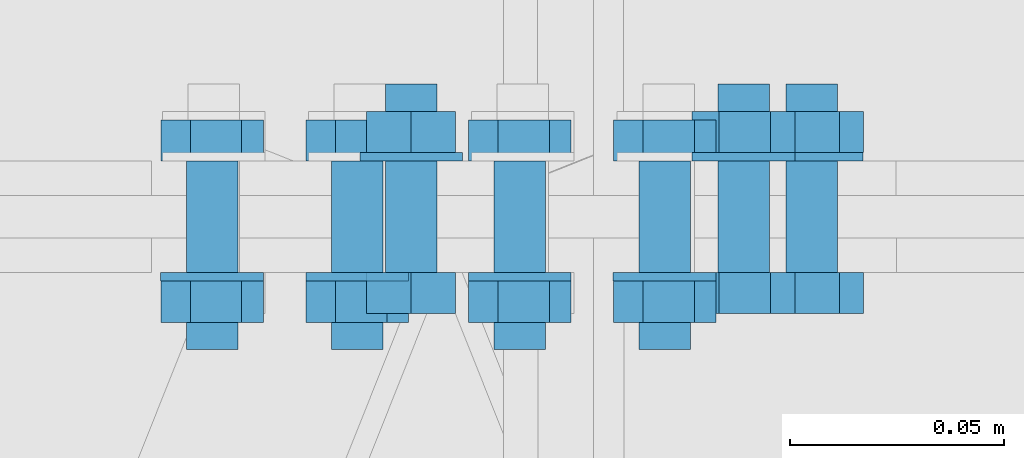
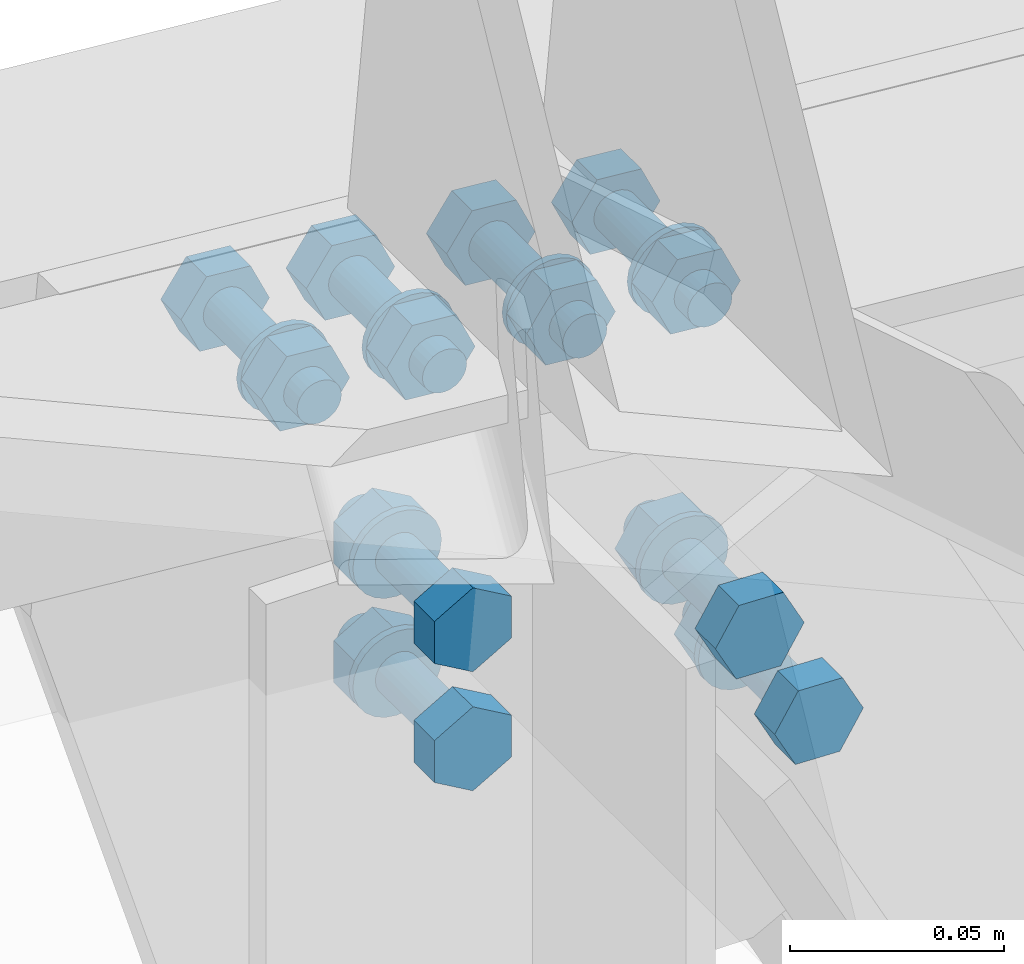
# One storey, part 200 of 251: 32 mechanical fasteners.
"""IFC4 building model written with IfcOpenShell, lengths in metres."""

from ifc_helpers import new_model, si_unit, frame, origin_with_axes, place, context, project, spatial, polyline, outline, extrude, type_object, element, save


model = new_model("IFC4")

# Units and contexts
model_context = context("Model", 3, precision=1e-05, world=origin_with_axes())
ifc_project = project(units=[si_unit("LENGTHUNIT", "METRE"), si_unit("AREAUNIT", "SQUARE_METRE"), si_unit("VOLUMEUNIT", "CUBIC_METRE"), si_unit("MASSUNIT", "GRAM", prefix="KILO"), si_unit("TIMEUNIT", "SECOND"), si_unit("PLANEANGLEUNIT", "RADIAN"), si_unit("SOLIDANGLEUNIT", "STERADIAN"), si_unit("THERMODYNAMICTEMPERATUREUNIT", "DEGREE_CELSIUS")], contexts=[model_context])

# Site, building, storey
placement_1 = place(None, origin_with_axes())
site = spatial("IfcSite", under=ifc_project, at=placement_1, Name="Italia", CompositionType="ELEMENT")
building = spatial("IfcBuilding", under=site, at=placement_1, Name="Deposito", CompositionType="ELEMENT")
storey = spatial("IfcBuildingStorey", under=building, at=placement_1, Name="Storey 0", CompositionType="ELEMENT", Elevation=0.0)

# Mechanical fasteners
mechanical_fastener_type_1 = type_object("IfcMechanicalFastenerType", Name="Reticolare 6", PredefinedType="BOLT")
placement_2 = place(placement_1, origin_with_axes())
mechanical_fastener_1_placement = place(placement_2, origin_with_axes())
element("IfcMechanicalFastener", 1, at=mechanical_fastener_1_placement, inside=storey, type_object=mechanical_fastener_type_1, Name="Reticolare 6", NominalDiameter=0.0119996, context=model_context, shape_type="SweptSolid", body=[
    extrude(outline(polyline([(0.0, 0.0), (0.0119543, 0.00104618), (0.018837, -0.00878382), (0.0137653, -0.0196595), (0.00181103, -0.0207052), (-0.00507164, -0.0108757), (0.0, 0.0)])), frame((10.0254, 20.013, 6.87607), z_axis=(0.0, 1.0, 0.0), x_axis=(-1.0, 0.0, 0.0)), (0.0, 0.0, 1.0), 0.00959969),
])
mechanical_fastener_type_2 = type_object("IfcMechanicalFastenerType", Name="Reticolare 6", PredefinedType="BOLT")
mechanical_fastener_2_placement = place(placement_2, origin_with_axes())
element("IfcMechanicalFastener", 2, at=mechanical_fastener_2_placement, inside=storey, type_object=mechanical_fastener_type_2, Name="Reticolare 6", NominalDiameter=0.012, context=model_context, shape_type="SweptSolid", body=[
    extrude(outline(polyline([(0.0, 0.0), (-0.000204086, -0.00155306), (-0.000802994, -0.00299978), (-0.00175667, -0.00424242), (-0.00299931, -0.00519609), (-0.00444698, -0.00579548), (-0.00599957, -0.00600004), (-0.00755215, -0.00579548), (-0.00899982, -0.00519609), (-0.0102425, -0.00424242), (-0.0111961, -0.00299978), (-0.011795, -0.00155306), (-0.0119991, 0.0), (-0.011795, 0.00155306), (-0.0111961, 0.00299978), (-0.0102425, 0.00424242), (-0.00899982, 0.00519609), (-0.00755215, 0.00579548), (-0.00599957, 0.00600004), (-0.00444698, 0.00579548), (-0.00299931, 0.00519609), (-0.00175667, 0.00424242), (-0.000802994, 0.00299978), (-0.000204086, 0.00155306), (0.0, 0.0)])), frame((10.0125, 19.969, 6.86624), z_axis=(0.0, 1.0, 0.0), x_axis=(-1.0, 0.0, 0.0)), (0.0, 0.0, 1.0), 0.0440006),
])
mechanical_fastener_type_3 = type_object("IfcMechanicalFastenerType", Name="Reticolare 6", PredefinedType="BOLT")
mechanical_fastener_3_placement = place(placement_2, origin_with_axes())
element("IfcMechanicalFastener", 3, at=mechanical_fastener_3_placement, inside=storey, type_object=mechanical_fastener_type_3, Name="Reticolare 6", NominalDiameter=0.0119996, context=model_context, shape_type="SweptSolid", body=[
    extrude(outline(polyline([(0.0, 0.0), (0.0119543, 0.00104618), (0.018837, -0.00878382), (0.0137653, -0.0196595), (0.00181103, -0.0207052), (-0.00507164, -0.0108757), (0.0, 0.0)])), frame((10.0254, 19.9754, 6.87607), z_axis=(0.0, 1.0, 0.0), x_axis=(-1.0, 0.0, 0.0)), (0.0, 0.0, 1.0), 0.00959969),
])
mechanical_fastener_type_4 = type_object("IfcMechanicalFastenerType", Name="Reticolare 6", PredefinedType="BOLT")
mechanical_fastener_4_placement = place(placement_2, origin_with_axes())
element("IfcMechanicalFastener", 4, at=mechanical_fastener_4_placement, inside=storey, type_object=mechanical_fastener_type_4, Name="Reticolare 6", NominalDiameter=0.024, context=model_context, shape_type="SweptSolid", body=[
    extrude(outline(polyline([(0.0, 0.0), (-0.000409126, -0.00310564), (-0.00160789, -0.00600004), (-0.00351524, -0.00848532), (-0.00600052, -0.0103922), (-0.00889397, -0.011591), (-0.0120001, -0.0120001), (-0.0151062, -0.011591), (-0.0179996, -0.0103922), (-0.0204849, -0.00848532), (-0.0223923, -0.00600004), (-0.023591, -0.00310564), (-0.0240002, 0.0), (-0.023591, 0.00310564), (-0.0223923, 0.00600004), (-0.0204849, 0.00848532), (-0.0179996, 0.0103922), (-0.0151062, 0.011591), (-0.0120001, 0.0120001), (-0.00889397, 0.011591), (-0.00600052, 0.0103922), (-0.00351524, 0.00848532), (-0.00160789, 0.00600004), (-0.000409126, 0.00310564), (0.0, 0.0)])), frame((10.0065, 19.985, 6.86624), z_axis=(0.0, 1.0, 0.0), x_axis=(-1.0, 0.0, 0.0)), (0.0, 0.0, 1.0), 0.0019989),
])
mechanical_fastener_type_5 = type_object("IfcMechanicalFastenerType", Name="Reticolare 6", PredefinedType="BOLT")
mechanical_fastener_5_placement = place(placement_2, origin_with_axes())
element("IfcMechanicalFastener", 5, at=mechanical_fastener_5_placement, inside=storey, type_object=mechanical_fastener_type_5, Name="Reticolare 6", NominalDiameter=0.012, context=model_context, shape_type="SweptSolid", body=[
    extrude(outline(polyline([(0.0, 0.0), (0.0119543, 0.0010457), (0.018837, -0.00878429), (0.0137653, -0.01966), (0.00181103, -0.0207057), (-0.00507164, -0.0108757), (0.0, 0.0)])), frame((9.99153, 20.013, 6.87903), z_axis=(0.0, 1.0, 0.0), x_axis=(-1.0, 0.0, 0.0)), (0.0, 0.0, 1.0), 0.00959969),
])
mechanical_fastener_type_6 = type_object("IfcMechanicalFastenerType", Name="Reticolare 6", PredefinedType="BOLT")
mechanical_fastener_6_placement = place(placement_2, origin_with_axes())
element("IfcMechanicalFastener", 6, at=mechanical_fastener_6_placement, inside=storey, type_object=mechanical_fastener_type_6, Name="Reticolare 6", NominalDiameter=0.012, context=model_context, shape_type="SweptSolid", body=[
    extrude(outline(polyline([(0.0, 0.0), (-0.000204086, -0.00155306), (-0.000802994, -0.00299978), (-0.00175667, -0.00424242), (-0.00299931, -0.00519609), (-0.00444698, -0.00579548), (-0.00599957, -0.00600004), (-0.00755215, -0.00579548), (-0.00899982, -0.00519609), (-0.0102425, -0.00424242), (-0.0111961, -0.00299978), (-0.011795, -0.00155306), (-0.0119991, 0.0), (-0.011795, 0.00155306), (-0.0111961, 0.00299978), (-0.0102425, 0.00424242), (-0.00899982, 0.00519609), (-0.00755215, 0.00579548), (-0.00599957, 0.00600004), (-0.00444698, 0.00579548), (-0.00299931, 0.00519609), (-0.00175667, 0.00424242), (-0.000802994, 0.00299978), (-0.000204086, 0.00155306), (0.0, 0.0)])), frame((9.97864, 19.969, 6.8692), z_axis=(0.0, 1.0, 0.0), x_axis=(-1.0, 0.0, 0.0)), (0.0, 0.0, 1.0), 0.0440006),
])
mechanical_fastener_type_7 = type_object("IfcMechanicalFastenerType", Name="Reticolare 6", PredefinedType="BOLT")
mechanical_fastener_7_placement = place(placement_2, origin_with_axes())
element("IfcMechanicalFastener", 7, at=mechanical_fastener_7_placement, inside=storey, type_object=mechanical_fastener_type_7, Name="Reticolare 6", NominalDiameter=0.012, context=model_context, shape_type="SweptSolid", body=[
    extrude(outline(polyline([(0.0, 0.0), (0.0119543, 0.0010457), (0.018837, -0.00878429), (0.0137653, -0.01966), (0.00181103, -0.0207057), (-0.00507164, -0.0108757), (0.0, 0.0)])), frame((9.99153, 19.9754, 6.87903), z_axis=(0.0, 1.0, 0.0), x_axis=(-1.0, 0.0, 0.0)), (0.0, 0.0, 1.0), 0.00959969),
])
mechanical_fastener_type_8 = type_object("IfcMechanicalFastenerType", Name="Reticolare 6", PredefinedType="BOLT")
mechanical_fastener_8_placement = place(placement_2, origin_with_axes())
element("IfcMechanicalFastener", 8, at=mechanical_fastener_8_placement, inside=storey, type_object=mechanical_fastener_type_8, Name="Reticolare 6", NominalDiameter=0.024, context=model_context, shape_type="SweptSolid", body=[
    extrude(outline(polyline([(0.0, 0.0), (-0.000409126, -0.00310564), (-0.00160789, -0.00600004), (-0.00351524, -0.00848532), (-0.00600052, -0.0103922), (-0.00889397, -0.011591), (-0.0120001, -0.0120001), (-0.0151062, -0.011591), (-0.0179996, -0.0103922), (-0.0204849, -0.00848532), (-0.0223923, -0.00600004), (-0.023591, -0.00310564), (-0.0240002, 0.0), (-0.023591, 0.00310564), (-0.0223923, 0.00600004), (-0.0204849, 0.00848532), (-0.0179996, 0.0103922), (-0.0151062, 0.011591), (-0.0120001, 0.0120001), (-0.00889397, 0.011591), (-0.00600052, 0.0103922), (-0.00351524, 0.00848532), (-0.00160789, 0.00600004), (-0.000409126, 0.00310564), (0.0, 0.0)])), frame((9.97264, 19.985, 6.8692), z_axis=(0.0, 1.0, 0.0), x_axis=(-1.0, 0.0, 0.0)), (0.0, 0.0, 1.0), 0.0019989),
])
mechanical_fastener_type_9 = type_object("IfcMechanicalFastenerType", Name="Reticolare 6", PredefinedType="BOLT")
mechanical_fastener_9_placement = place(placement_2, origin_with_axes())
element("IfcMechanicalFastener", 9, at=mechanical_fastener_9_placement, inside=storey, type_object=mechanical_fastener_type_9, Name="Reticolare 6", NominalDiameter=0.0119997, context=model_context, shape_type="SweptSolid", body=[
    extrude(outline(polyline([(0.0, 0.0), (0.0119543, 0.0010457), (0.0188379, -0.00878429), (0.0137663, -0.01966), (0.00181198, -0.0207057), (-0.00507069, -0.0108757), (0.0, 0.0)])), frame((10.0633, 20.013, 6.87276), z_axis=(0.0, 1.0, 0.0), x_axis=(-1.0, 0.0, 0.0)), (0.0, 0.0, 1.0), 0.00959969),
])
mechanical_fastener_type_10 = type_object("IfcMechanicalFastenerType", Name="Reticolare 6", PredefinedType="BOLT")
mechanical_fastener_10_placement = place(placement_2, origin_with_axes())
element("IfcMechanicalFastener", 10, at=mechanical_fastener_10_placement, inside=storey, type_object=mechanical_fastener_type_10, Name="Reticolare 6", NominalDiameter=0.012, context=model_context, shape_type="SweptSolid", body=[
    extrude(outline(polyline([(0.0, 0.0), (-0.000204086, -0.00155306), (-0.000802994, -0.00299978), (-0.00175667, -0.00424242), (-0.00299931, -0.00519609), (-0.00444698, -0.00579548), (-0.00599957, -0.00600004), (-0.00755215, -0.00579548), (-0.00899982, -0.00519609), (-0.0102425, -0.00424242), (-0.0111961, -0.00299978), (-0.011795, -0.00155306), (-0.0119991, 0.0), (-0.011795, 0.00155306), (-0.0111961, 0.00299978), (-0.0102425, 0.00424242), (-0.00899982, 0.00519609), (-0.00755215, 0.00579548), (-0.00599957, 0.00600004), (-0.00444698, 0.00579548), (-0.00299931, 0.00519609), (-0.00175667, 0.00424242), (-0.000802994, 0.00299978), (-0.000204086, 0.00155306), (0.0, 0.0)])), frame((10.0504, 19.969, 6.86293), z_axis=(0.0, 1.0, 0.0), x_axis=(-1.0, 0.0, 0.0)), (0.0, 0.0, 1.0), 0.0440006),
])
mechanical_fastener_type_11 = type_object("IfcMechanicalFastenerType", Name="Reticolare 6", PredefinedType="BOLT")
mechanical_fastener_11_placement = place(placement_2, origin_with_axes())
element("IfcMechanicalFastener", 11, at=mechanical_fastener_11_placement, inside=storey, type_object=mechanical_fastener_type_11, Name="Reticolare 6", NominalDiameter=0.0119997, context=model_context, shape_type="SweptSolid", body=[
    extrude(outline(polyline([(0.0, 0.0), (0.0119543, 0.0010457), (0.0188379, -0.00878429), (0.0137663, -0.01966), (0.00181198, -0.0207057), (-0.00507069, -0.0108757), (0.0, 0.0)])), frame((10.0633, 19.9754, 6.87276), z_axis=(0.0, 1.0, 0.0), x_axis=(-1.0, 0.0, 0.0)), (0.0, 0.0, 1.0), 0.00959969),
])
mechanical_fastener_type_12 = type_object("IfcMechanicalFastenerType", Name="Reticolare 6", PredefinedType="BOLT")
mechanical_fastener_12_placement = place(placement_2, origin_with_axes())
element("IfcMechanicalFastener", 12, at=mechanical_fastener_12_placement, inside=storey, type_object=mechanical_fastener_type_12, Name="Reticolare 6", NominalDiameter=0.024, context=model_context, shape_type="SweptSolid", body=[
    extrude(outline(polyline([(0.0, 0.0), (-0.000409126, -0.00310564), (-0.00160789, -0.00600004), (-0.00351524, -0.00848532), (-0.00600052, -0.0103922), (-0.00889397, -0.011591), (-0.0120001, -0.0120001), (-0.0151062, -0.011591), (-0.0179996, -0.0103922), (-0.0204849, -0.00848532), (-0.0223923, -0.00600004), (-0.023591, -0.00310564), (-0.0240002, 0.0), (-0.023591, 0.00310564), (-0.0223923, 0.00600004), (-0.0204849, 0.00848532), (-0.0179996, 0.0103922), (-0.0151062, 0.011591), (-0.0120001, 0.0120001), (-0.00889397, 0.011591), (-0.00600052, 0.0103922), (-0.00351524, 0.00848532), (-0.00160789, 0.00600004), (-0.000409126, 0.00310564), (0.0, 0.0)])), frame((10.0444, 19.985, 6.86293), z_axis=(0.0, 1.0, 0.0), x_axis=(-1.0, 0.0, 0.0)), (0.0, 0.0, 1.0), 0.0019989),
])
mechanical_fastener_type_13 = type_object("IfcMechanicalFastenerType", Name="Reticolare 6", PredefinedType="BOLT")
mechanical_fastener_13_placement = place(placement_2, origin_with_axes())
element("IfcMechanicalFastener", 13, at=mechanical_fastener_13_placement, inside=storey, type_object=mechanical_fastener_type_13, Name="Reticolare 6", NominalDiameter=0.0119996, context=model_context, shape_type="SweptSolid", body=[
    extrude(outline(polyline([(0.0, 0.0), (0.0119543, 0.00104618), (0.0188379, -0.00878382), (0.0137663, -0.0196595), (0.00181198, -0.0207052), (-0.00507069, -0.0108757), (0.0, 0.0)])), frame((10.0971, 20.013, 6.86979), z_axis=(0.0, 1.0, 0.0), x_axis=(-1.0, 0.0, 0.0)), (0.0, 0.0, 1.0), 0.00959969),
])
mechanical_fastener_type_14 = type_object("IfcMechanicalFastenerType", Name="Reticolare 6", PredefinedType="BOLT")
mechanical_fastener_14_placement = place(placement_2, origin_with_axes())
element("IfcMechanicalFastener", 14, at=mechanical_fastener_14_placement, inside=storey, type_object=mechanical_fastener_type_14, Name="Reticolare 6", NominalDiameter=0.012, context=model_context, shape_type="SweptSolid", body=[
    extrude(outline(polyline([(0.0, 0.0), (-0.000204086, -0.00155306), (-0.000802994, -0.00299978), (-0.00175667, -0.00424242), (-0.00299931, -0.00519609), (-0.00444698, -0.00579548), (-0.00599957, -0.00600004), (-0.00755215, -0.00579548), (-0.00899982, -0.00519609), (-0.0102425, -0.00424242), (-0.0111961, -0.00299978), (-0.011795, -0.00155306), (-0.0119991, 0.0), (-0.011795, 0.00155306), (-0.0111961, 0.00299978), (-0.0102425, 0.00424242), (-0.00899982, 0.00519609), (-0.00755215, 0.00579548), (-0.00599957, 0.00600004), (-0.00444698, 0.00579548), (-0.00299931, 0.00519609), (-0.00175667, 0.00424242), (-0.000802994, 0.00299978), (-0.000204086, 0.00155306), (0.0, 0.0)])), frame((10.0842, 19.969, 6.85996), z_axis=(0.0, 1.0, 0.0), x_axis=(-1.0, 0.0, 0.0)), (0.0, 0.0, 1.0), 0.0440006),
])
mechanical_fastener_type_15 = type_object("IfcMechanicalFastenerType", Name="Reticolare 6", PredefinedType="BOLT")
mechanical_fastener_15_placement = place(placement_2, origin_with_axes())
element("IfcMechanicalFastener", 15, at=mechanical_fastener_15_placement, inside=storey, type_object=mechanical_fastener_type_15, Name="Reticolare 6", NominalDiameter=0.0119996, context=model_context, shape_type="SweptSolid", body=[
    extrude(outline(polyline([(0.0, 0.0), (0.0119543, 0.00104618), (0.0188379, -0.00878382), (0.0137663, -0.0196595), (0.00181198, -0.0207052), (-0.00507069, -0.0108757), (0.0, 0.0)])), frame((10.0971, 19.9754, 6.86979), z_axis=(0.0, 1.0, 0.0), x_axis=(-1.0, 0.0, 0.0)), (0.0, 0.0, 1.0), 0.00959969),
])
mechanical_fastener_type_16 = type_object("IfcMechanicalFastenerType", Name="Reticolare 6", PredefinedType="BOLT")
mechanical_fastener_16_placement = place(placement_2, origin_with_axes())
element("IfcMechanicalFastener", 16, at=mechanical_fastener_16_placement, inside=storey, type_object=mechanical_fastener_type_16, Name="Reticolare 6", NominalDiameter=0.024, context=model_context, shape_type="SweptSolid", body=[
    extrude(outline(polyline([(0.0, 0.0), (-0.000409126, -0.00310564), (-0.00160789, -0.00600004), (-0.00351524, -0.00848532), (-0.00600052, -0.0103922), (-0.00889397, -0.011591), (-0.0120001, -0.0120001), (-0.0151062, -0.011591), (-0.0179996, -0.0103922), (-0.0204849, -0.00848532), (-0.0223923, -0.00600004), (-0.023591, -0.00310564), (-0.0240002, 0.0), (-0.023591, 0.00310564), (-0.0223923, 0.00600004), (-0.0204849, 0.00848532), (-0.0179996, 0.0103922), (-0.0151062, 0.011591), (-0.0120001, 0.0120001), (-0.00889397, 0.011591), (-0.00600052, 0.0103922), (-0.00351524, 0.00848532), (-0.00160789, 0.00600004), (-0.000409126, 0.00310564), (0.0, 0.0)])), frame((10.0782, 19.985, 6.85996), z_axis=(0.0, 1.0, 0.0), x_axis=(-1.0, 0.0, 0.0)), (0.0, 0.0, 1.0), 0.0019989),
])
mechanical_fastener_type_17 = type_object("IfcMechanicalFastenerType", Name="Reticolare 6", PredefinedType="BOLT")
mechanical_fastener_17_placement = place(placement_2, origin_with_axes())
element("IfcMechanicalFastener", 17, at=mechanical_fastener_17_placement, inside=storey, type_object=mechanical_fastener_type_17, Name="Reticolare 6", NominalDiameter=0.0119999, context=model_context, shape_type="SweptSolid", body=[
    extrude(outline(polyline([(0.0, 0.0), (0.0, -0.0120001), (-0.0103922, -0.0180001), (-0.0207844, -0.0120001), (-0.0207844, 0.0), (-0.0103922, 0.00600004), (0.0, 0.0)])), frame((10.0414, 19.987, 6.7888), z_axis=(0.0, -1.0, 0.0), x_axis=(1.0, 0.0, 0.0)), (0.0, 0.0, 1.0), 0.00959969),
])
mechanical_fastener_type_18 = type_object("IfcMechanicalFastenerType", Name="Reticolare 6", PredefinedType="BOLT")
mechanical_fastener_18_placement = place(placement_2, origin_with_axes())
element("IfcMechanicalFastener", 18, at=mechanical_fastener_18_placement, inside=storey, type_object=mechanical_fastener_type_18, Name="Reticolare 6", NominalDiameter=0.012, context=model_context, shape_type="SweptSolid", body=[
    extrude(outline(polyline([(0.0, 0.0), (-0.000204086, -0.00155306), (-0.000802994, -0.00299978), (-0.00175667, -0.00424242), (-0.00299931, -0.00519609), (-0.00444698, -0.00579548), (-0.00599957, -0.00600004), (-0.00755215, -0.00579548), (-0.00899982, -0.00519609), (-0.0102425, -0.00424242), (-0.0111961, -0.00299978), (-0.011795, -0.00155306), (-0.0119991, 0.0), (-0.011795, 0.00155306), (-0.0111961, 0.00299978), (-0.0102425, 0.00424242), (-0.00899982, 0.00519609), (-0.00755215, 0.00579548), (-0.00599957, 0.00600004), (-0.00444698, 0.00579548), (-0.00299931, 0.00519609), (-0.00175667, 0.00424242), (-0.000802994, 0.00299978), (-0.000204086, 0.00155306), (0.0, 0.0)])), frame((10.0371, 20.031, 6.7828), z_axis=(0.0, -1.0, 0.0), x_axis=(1.0, 0.0, 0.0)), (0.0, 0.0, 1.0), 0.0440006),
])
mechanical_fastener_type_19 = type_object("IfcMechanicalFastenerType", Name="Reticolare 6", PredefinedType="BOLT")
mechanical_fastener_19_placement = place(placement_2, origin_with_axes())
element("IfcMechanicalFastener", 19, at=mechanical_fastener_19_placement, inside=storey, type_object=mechanical_fastener_type_19, Name="Reticolare 6", NominalDiameter=0.0119999, context=model_context, shape_type="SweptSolid", body=[
    extrude(outline(polyline([(0.0, 0.0), (0.0, -0.0120001), (-0.0103922, -0.0180001), (-0.0207844, -0.0120001), (-0.0207844, 0.0), (-0.0103922, 0.00600004), (0.0, 0.0)])), frame((10.0414, 20.0246, 6.7888), z_axis=(0.0, -1.0, 0.0), x_axis=(1.0, 0.0, 0.0)), (0.0, 0.0, 1.0), 0.00959969),
])
mechanical_fastener_type_20 = type_object("IfcMechanicalFastenerType", Name="Reticolare 6", PredefinedType="BOLT")
mechanical_fastener_20_placement = place(placement_2, origin_with_axes())
element("IfcMechanicalFastener", 20, at=mechanical_fastener_20_placement, inside=storey, type_object=mechanical_fastener_type_20, Name="Reticolare 6", NominalDiameter=0.024, context=model_context, shape_type="SweptSolid", body=[
    extrude(outline(polyline([(0.0, 0.0), (-0.000409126, -0.00310564), (-0.00160789, -0.00600004), (-0.00351524, -0.00848532), (-0.00600052, -0.0103922), (-0.00889397, -0.011591), (-0.0120001, -0.0120001), (-0.0151062, -0.011591), (-0.0179996, -0.0103922), (-0.0204849, -0.00848532), (-0.0223923, -0.00600004), (-0.023591, -0.00310564), (-0.0240002, 0.0), (-0.023591, 0.00310564), (-0.0223923, 0.00600004), (-0.0204849, 0.00848532), (-0.0179996, 0.0103922), (-0.0151062, 0.011591), (-0.0120001, 0.0120001), (-0.00889397, 0.011591), (-0.00600052, 0.0103922), (-0.00351524, 0.00848532), (-0.00160789, 0.00600004), (-0.000409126, 0.00310564), (0.0, 0.0)])), frame((10.0431, 20.015, 6.7828), z_axis=(0.0, -1.0, 0.0), x_axis=(1.0, 0.0, 0.0)), (0.0, 0.0, 1.0), 0.0019989),
])
mechanical_fastener_type_21 = type_object("IfcMechanicalFastenerType", Name="Reticolare 6", PredefinedType="BOLT")
mechanical_fastener_21_placement = place(placement_2, origin_with_axes())
element("IfcMechanicalFastener", 21, at=mechanical_fastener_21_placement, inside=storey, type_object=mechanical_fastener_type_21, Name="Reticolare 6", NominalDiameter=0.0119999, context=model_context, shape_type="SweptSolid", body=[
    extrude(outline(polyline([(0.0, 0.0), (0.0, -0.0120001), (-0.0103922, -0.0180001), (-0.0207844, -0.0120001), (-0.0207844, 0.0), (-0.0103922, 0.00600004), (0.0, 0.0)])), frame((10.0414, 19.987, 6.7548), z_axis=(0.0, -1.0, 0.0), x_axis=(1.0, 0.0, 0.0)), (0.0, 0.0, 1.0), 0.00959969),
])
mechanical_fastener_type_22 = type_object("IfcMechanicalFastenerType", Name="Reticolare 6", PredefinedType="BOLT")
mechanical_fastener_22_placement = place(placement_2, origin_with_axes())
element("IfcMechanicalFastener", 22, at=mechanical_fastener_22_placement, inside=storey, type_object=mechanical_fastener_type_22, Name="Reticolare 6", NominalDiameter=0.012, context=model_context, shape_type="SweptSolid", body=[
    extrude(outline(polyline([(0.0, 0.0), (-0.000204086, -0.00155306), (-0.000802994, -0.00299978), (-0.00175667, -0.00424242), (-0.00299931, -0.00519609), (-0.00444698, -0.00579548), (-0.00599957, -0.00600004), (-0.00755215, -0.00579548), (-0.00899982, -0.00519609), (-0.0102425, -0.00424242), (-0.0111961, -0.00299978), (-0.011795, -0.00155306), (-0.0119991, 0.0), (-0.011795, 0.00155306), (-0.0111961, 0.00299978), (-0.0102425, 0.00424242), (-0.00899982, 0.00519609), (-0.00755215, 0.00579548), (-0.00599957, 0.00600004), (-0.00444698, 0.00579548), (-0.00299931, 0.00519609), (-0.00175667, 0.00424242), (-0.000802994, 0.00299978), (-0.000204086, 0.00155306), (0.0, 0.0)])), frame((10.0371, 20.031, 6.7488), z_axis=(0.0, -1.0, 0.0), x_axis=(1.0, 0.0, 0.0)), (0.0, 0.0, 1.0), 0.0440006),
])
mechanical_fastener_type_23 = type_object("IfcMechanicalFastenerType", Name="Reticolare 6", PredefinedType="BOLT")
mechanical_fastener_23_placement = place(placement_2, origin_with_axes())
element("IfcMechanicalFastener", 23, at=mechanical_fastener_23_placement, inside=storey, type_object=mechanical_fastener_type_23, Name="Reticolare 6", NominalDiameter=0.0119999, context=model_context, shape_type="SweptSolid", body=[
    extrude(outline(polyline([(0.0, 0.0), (0.0, -0.0120001), (-0.0103922, -0.0180001), (-0.0207844, -0.0120001), (-0.0207844, 0.0), (-0.0103922, 0.00600004), (0.0, 0.0)])), frame((10.0414, 20.0246, 6.7548), z_axis=(0.0, -1.0, 0.0), x_axis=(1.0, 0.0, 0.0)), (0.0, 0.0, 1.0), 0.00959969),
])
mechanical_fastener_type_24 = type_object("IfcMechanicalFastenerType", Name="Reticolare 6", PredefinedType="BOLT")
mechanical_fastener_24_placement = place(placement_2, origin_with_axes())
element("IfcMechanicalFastener", 24, at=mechanical_fastener_24_placement, inside=storey, type_object=mechanical_fastener_type_24, Name="Reticolare 6", NominalDiameter=0.024, context=model_context, shape_type="SweptSolid", body=[
    extrude(outline(polyline([(0.0, 0.0), (-0.000409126, -0.00310564), (-0.00160789, -0.00600004), (-0.00351524, -0.00848532), (-0.00600052, -0.0103922), (-0.00889397, -0.011591), (-0.0120001, -0.0120001), (-0.0151062, -0.011591), (-0.0179996, -0.0103922), (-0.0204849, -0.00848532), (-0.0223923, -0.00600004), (-0.023591, -0.00310564), (-0.0240002, 0.0), (-0.023591, 0.00310564), (-0.0223923, 0.00600004), (-0.0204849, 0.00848532), (-0.0179996, 0.0103922), (-0.0151062, 0.011591), (-0.0120001, 0.0120001), (-0.00889397, 0.011591), (-0.00600052, 0.0103922), (-0.00351524, 0.00848532), (-0.00160789, 0.00600004), (-0.000409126, 0.00310564), (0.0, 0.0)])), frame((10.0431, 20.015, 6.7488), z_axis=(0.0, -1.0, 0.0), x_axis=(1.0, 0.0, 0.0)), (0.0, 0.0, 1.0), 0.0019989),
])
mechanical_fastener_type_25 = type_object("IfcMechanicalFastenerType", Name="Reticolare 6", PredefinedType="BOLT")
mechanical_fastener_25_placement = place(placement_2, origin_with_axes())
element("IfcMechanicalFastener", 25, at=mechanical_fastener_25_placement, inside=storey, type_object=mechanical_fastener_type_25, Name="Reticolare 6", NominalDiameter=0.0119999, context=model_context, shape_type="SweptSolid", body=[
    extrude(outline(polyline([(0.0, 0.0), (-0.00563812, 0.0105929), (0.000716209, 0.0207725), (0.0127096, 0.020359), (0.0183477, 0.0097661), (0.0119934, -0.000413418), (0.0, 0.0)])), frame((10.1022, 19.987, 6.74381), z_axis=(0.0, -1.0, 0.0), x_axis=(1.0, 0.0, 0.0)), (0.0, 0.0, 1.0), 0.00959969),
])
mechanical_fastener_type_26 = type_object("IfcMechanicalFastenerType", Name="Reticolare 6", PredefinedType="BOLT")
mechanical_fastener_26_placement = place(placement_2, origin_with_axes())
element("IfcMechanicalFastener", 26, at=mechanical_fastener_26_placement, inside=storey, type_object=mechanical_fastener_type_26, Name="Reticolare 6", NominalDiameter=0.012, context=model_context, shape_type="SweptSolid", body=[
    extrude(outline(polyline([(0.0, 0.0), (-0.000204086, -0.00155306), (-0.000802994, -0.00299978), (-0.00175667, -0.00424242), (-0.00299931, -0.00519609), (-0.00444698, -0.00579548), (-0.00599957, -0.00600004), (-0.00755215, -0.00579548), (-0.00899982, -0.00519609), (-0.0102425, -0.00424242), (-0.0111961, -0.00299978), (-0.011795, -0.00155306), (-0.0119991, 0.0), (-0.011795, 0.00155306), (-0.0111961, 0.00299978), (-0.0102425, 0.00424242), (-0.00899982, 0.00519609), (-0.00755215, 0.00579548), (-0.00599957, 0.00600004), (-0.00444698, 0.00579548), (-0.00299931, 0.00519609), (-0.00175667, 0.00424242), (-0.000802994, 0.00299978), (-0.000204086, 0.00155306), (0.0, 0.0)])), frame((10.1146, 20.031, 6.75399), z_axis=(0.0, -1.0, 0.0), x_axis=(1.0, 0.0, 0.0)), (0.0, 0.0, 1.0), 0.0440006),
])
mechanical_fastener_type_27 = type_object("IfcMechanicalFastenerType", Name="Reticolare 6", PredefinedType="BOLT")
mechanical_fastener_27_placement = place(placement_2, origin_with_axes())
element("IfcMechanicalFastener", 27, at=mechanical_fastener_27_placement, inside=storey, type_object=mechanical_fastener_type_27, Name="Reticolare 6", NominalDiameter=0.0119999, context=model_context, shape_type="SweptSolid", body=[
    extrude(outline(polyline([(0.0, 0.0), (-0.00563812, 0.0105929), (0.000716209, 0.0207725), (0.0127096, 0.020359), (0.0183477, 0.0097661), (0.0119934, -0.000413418), (0.0, 0.0)])), frame((10.1022, 20.0246, 6.74381), z_axis=(0.0, -1.0, 0.0), x_axis=(1.0, 0.0, 0.0)), (0.0, 0.0, 1.0), 0.00959969),
])
mechanical_fastener_type_28 = type_object("IfcMechanicalFastenerType", Name="Reticolare 6", PredefinedType="BOLT")
mechanical_fastener_28_placement = place(placement_2, origin_with_axes())
element("IfcMechanicalFastener", 28, at=mechanical_fastener_28_placement, inside=storey, type_object=mechanical_fastener_type_28, Name="Reticolare 6", NominalDiameter=0.024, context=model_context, shape_type="SweptSolid", body=[
    extrude(outline(polyline([(0.0, 0.0), (-0.000409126, -0.00310564), (-0.00160789, -0.00600004), (-0.00351524, -0.00848532), (-0.00600052, -0.0103922), (-0.00889397, -0.011591), (-0.0120001, -0.0120001), (-0.0151062, -0.011591), (-0.0179996, -0.0103922), (-0.0204849, -0.00848532), (-0.0223923, -0.00600004), (-0.023591, -0.00310564), (-0.0240002, 0.0), (-0.023591, 0.00310564), (-0.0223923, 0.00600004), (-0.0204849, 0.00848532), (-0.0179996, 0.0103922), (-0.0151062, 0.011591), (-0.0120001, 0.0120001), (-0.00889397, 0.011591), (-0.00600052, 0.0103922), (-0.00351524, 0.00848532), (-0.00160789, 0.00600004), (-0.000409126, 0.00310564), (0.0, 0.0)])), frame((10.1206, 20.015, 6.75399), z_axis=(0.0, -1.0, 0.0), x_axis=(1.0, 0.0, 0.0)), (0.0, 0.0, 1.0), 0.0019989),
])
mechanical_fastener_type_29 = type_object("IfcMechanicalFastenerType", Name="Reticolare 6", PredefinedType="BOLT")
mechanical_fastener_29_placement = place(placement_2, origin_with_axes())
element("IfcMechanicalFastener", 29, at=mechanical_fastener_29_placement, inside=storey, type_object=mechanical_fastener_type_29, Name="Reticolare 6", NominalDiameter=0.0119996, context=model_context, shape_type="SweptSolid", body=[
    extrude(outline(polyline([(0.0, 0.0), (-0.00563908, 0.0105929), (0.000716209, 0.0207725), (0.0127087, 0.020359), (0.0183468, 0.0097661), (0.0119925, -0.000413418), (0.0, 0.0)])), frame((10.1182, 19.987, 6.71379), z_axis=(0.0, -1.0, 0.0), x_axis=(1.0, 0.0, 0.0)), (0.0, 0.0, 1.0), 0.00959969),
])
mechanical_fastener_type_30 = type_object("IfcMechanicalFastenerType", Name="Reticolare 6", PredefinedType="BOLT")
mechanical_fastener_30_placement = place(placement_2, origin_with_axes())
element("IfcMechanicalFastener", 30, at=mechanical_fastener_30_placement, inside=storey, type_object=mechanical_fastener_type_30, Name="Reticolare 6", NominalDiameter=0.012, context=model_context, shape_type="SweptSolid", body=[
    extrude(outline(polyline([(0.0, 0.0), (-0.000204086, -0.00155306), (-0.000802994, -0.00299978), (-0.00175667, -0.00424242), (-0.00299931, -0.00519609), (-0.00444698, -0.00579548), (-0.00599957, -0.00600004), (-0.00755215, -0.00579548), (-0.00899982, -0.00519609), (-0.0102425, -0.00424242), (-0.0111961, -0.00299978), (-0.011795, -0.00155306), (-0.0119991, 0.0), (-0.011795, 0.00155306), (-0.0111961, 0.00299978), (-0.0102425, 0.00424242), (-0.00899982, 0.00519609), (-0.00755215, 0.00579548), (-0.00599957, 0.00600004), (-0.00444698, 0.00579548), (-0.00299931, 0.00519609), (-0.00175667, 0.00424242), (-0.000802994, 0.00299978), (-0.000204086, 0.00155306), (0.0, 0.0)])), frame((10.1305, 20.031, 6.72397), z_axis=(0.0, -1.0, 0.0), x_axis=(1.0, 0.0, 0.0)), (0.0, 0.0, 1.0), 0.0440006),
])
mechanical_fastener_type_31 = type_object("IfcMechanicalFastenerType", Name="Reticolare 6", PredefinedType="BOLT")
mechanical_fastener_31_placement = place(placement_2, origin_with_axes())
element("IfcMechanicalFastener", 31, at=mechanical_fastener_31_placement, inside=storey, type_object=mechanical_fastener_type_31, Name="Reticolare 6", NominalDiameter=0.0119996, context=model_context, shape_type="SweptSolid", body=[
    extrude(outline(polyline([(0.0, 0.0), (-0.00563908, 0.0105929), (0.000716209, 0.0207725), (0.0127087, 0.020359), (0.0183468, 0.0097661), (0.0119925, -0.000413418), (0.0, 0.0)])), frame((10.1182, 20.0246, 6.71379), z_axis=(0.0, -1.0, 0.0), x_axis=(1.0, 0.0, 0.0)), (0.0, 0.0, 1.0), 0.00959969),
])
mechanical_fastener_type_32 = type_object("IfcMechanicalFastenerType", Name="Reticolare 6", PredefinedType="BOLT")
mechanical_fastener_32_placement = place(placement_2, origin_with_axes())
element("IfcMechanicalFastener", 32, at=mechanical_fastener_32_placement, inside=storey, type_object=mechanical_fastener_type_32, Name="Reticolare 6", NominalDiameter=0.024, context=model_context, shape_type="SweptSolid", body=[
    extrude(outline(polyline([(0.0, 0.0), (-0.000409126, -0.00310564), (-0.00160789, -0.00600004), (-0.00351524, -0.00848532), (-0.00600052, -0.0103922), (-0.00889397, -0.011591), (-0.0120001, -0.0120001), (-0.0151062, -0.011591), (-0.0179996, -0.0103922), (-0.0204849, -0.00848532), (-0.0223923, -0.00600004), (-0.023591, -0.00310564), (-0.0240002, 0.0), (-0.023591, 0.00310564), (-0.0223923, 0.00600004), (-0.0204849, 0.00848532), (-0.0179996, 0.0103922), (-0.0151062, 0.011591), (-0.0120001, 0.0120001), (-0.00889397, 0.011591), (-0.00600052, 0.0103922), (-0.00351524, 0.00848532), (-0.00160789, 0.00600004), (-0.000409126, 0.00310564), (0.0, 0.0)])), frame((10.1365, 20.015, 6.72397), z_axis=(0.0, -1.0, 0.0), x_axis=(1.0, 0.0, 0.0)), (0.0, 0.0, 1.0), 0.0019989),
])

save(model, "model.ifc")
